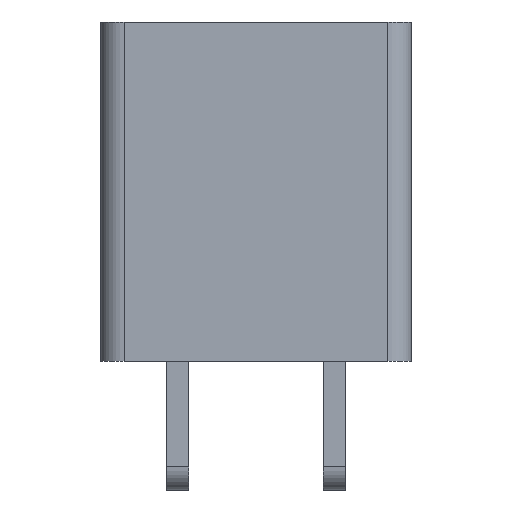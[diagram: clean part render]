
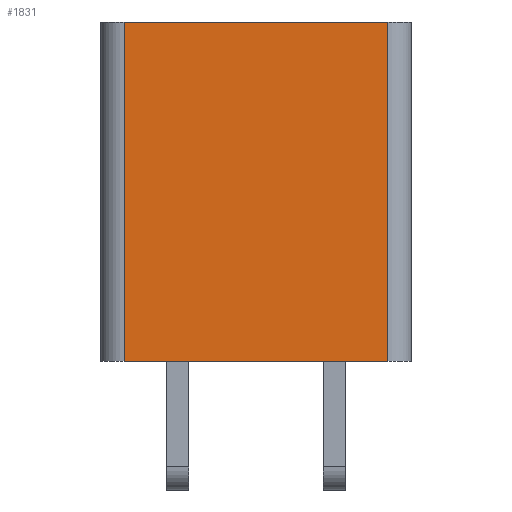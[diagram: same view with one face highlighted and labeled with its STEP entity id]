
A CAD part, left-side view. The second image highlights one B-rep face of the part: STEP entity #1831.
In plain terms, the highlighted planar face has unit normal (-1, 0, 0).
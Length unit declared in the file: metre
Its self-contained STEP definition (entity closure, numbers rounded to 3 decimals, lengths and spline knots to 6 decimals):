
#82=FACE_OUTER_BOUND('',#185,.T.);
#185=EDGE_LOOP('',(#1226,#1227,#1228,#1229));
#354=LINE('',#2718,#554);
#372=LINE('',#2759,#572);
#373=LINE('',#2761,#573);
#374=LINE('',#2762,#574);
#554=VECTOR('',#2171,1.);
#572=VECTOR('',#2197,1.);
#573=VECTOR('',#2198,1.);
#574=VECTOR('',#2199,1.);
#756=VERTEX_POINT('',#2715);
#757=VERTEX_POINT('',#2717);
#776=VERTEX_POINT('',#2758);
#777=VERTEX_POINT('',#2760);
#935=EDGE_CURVE('',#757,#756,#354,.T.);
#956=EDGE_CURVE('',#756,#776,#372,.T.);
#957=EDGE_CURVE('',#777,#776,#373,.T.);
#958=EDGE_CURVE('',#777,#757,#374,.T.);
#1226=ORIENTED_EDGE('',*,*,#935,.T.);
#1227=ORIENTED_EDGE('',*,*,#956,.T.);
#1228=ORIENTED_EDGE('',*,*,#957,.F.);
#1229=ORIENTED_EDGE('',*,*,#958,.T.);
#1715=PLANE('',#1978);
#1831=ADVANCED_FACE('',(#82),#1715,.F.);
#1978=AXIS2_PLACEMENT_3D('',#2757,#2195,#2196);
#2171=DIRECTION('',(0.,-1.,0.));
#2195=DIRECTION('center_axis',(1.,0.,0.));
#2196=DIRECTION('ref_axis',(0.,1.,0.));
#2197=DIRECTION('',(0.,0.,1.));
#2198=DIRECTION('',(0.,-1.,0.));
#2199=DIRECTION('',(0.,0.,-1.));
#2715=CARTESIAN_POINT('',(-0.00988,-0.00283,0.000016));
#2717=CARTESIAN_POINT('',(-0.00988,0.0029,0.000016));
#2718=CARTESIAN_POINT('',(-0.00988,-0.00333,0.000016));
#2757=CARTESIAN_POINT('Origin',(-0.00988,-0.00333,0.007386));
#2758=CARTESIAN_POINT('',(-0.00988,-0.00283,0.007386));
#2759=CARTESIAN_POINT('',(-0.00988,-0.00283,0.007386));
#2760=CARTESIAN_POINT('',(-0.00988,0.0029,0.007386));
#2761=CARTESIAN_POINT('',(-0.00988,-0.00333,0.007386));
#2762=CARTESIAN_POINT('',(-0.00988,0.0029,0.007386));
